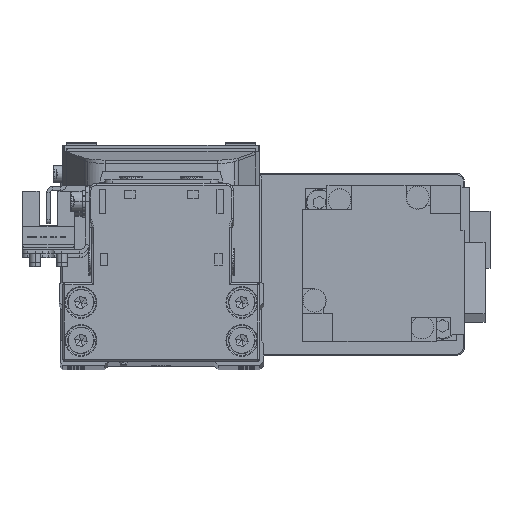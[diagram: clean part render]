
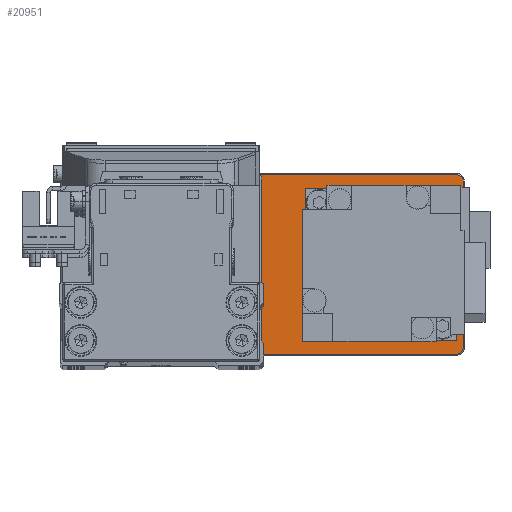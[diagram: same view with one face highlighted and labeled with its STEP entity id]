
A CAD part, top view. The second image highlights one B-rep face of the part: STEP entity #20951.
In plain terms, the highlighted planar face has unit normal (0, 0, 1).
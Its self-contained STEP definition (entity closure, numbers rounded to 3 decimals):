
#289 = FACE_OUTER_BOUND ( 'NONE', #37973, .T. ) ;
#781 = VECTOR ( 'NONE', #17020, 1000. ) ;
#1778 = ORIENTED_EDGE ( 'NONE', *, *, #16296, .T. ) ;
#2036 = ORIENTED_EDGE ( 'NONE', *, *, #4574, .T. ) ;
#2193 = CARTESIAN_POINT ( 'NONE',  ( -51.7, -22., 5. ) ) ;
#2238 = CIRCLE ( 'NONE', #25047, 10.3 ) ;
#2443 = VECTOR ( 'NONE', #18905, 1000. ) ;
#3017 = CARTESIAN_POINT ( 'NONE',  ( 50., 22., 5. ) ) ;
#3178 = AXIS2_PLACEMENT_3D ( 'NONE', #20505, #32922, #4996 ) ;
#3695 = CIRCLE ( 'NONE', #26474, 1.7 ) ;
#3943 = DIRECTION ( 'NONE',  ( -1., 0., 0. ) ) ;
#4574 = EDGE_CURVE ( 'NONE', #15515, #34267, #33291, .T. ) ;
#4580 = CARTESIAN_POINT ( 'NONE',  ( 51.7, 22., 5. ) ) ;
#4996 = DIRECTION ( 'NONE',  ( 1., 0., 0. ) ) ;
#5212 = LINE ( 'NONE', #17647, #14406 ) ;
#5904 = EDGE_LOOP ( 'NONE', ( #18981, #39019 ) ) ;
#6262 = EDGE_CURVE ( 'NONE', #14767, #22839, #20768, .T. ) ;
#6274 = CIRCLE ( 'NONE', #29068, 10.3 ) ;
#6382 = DIRECTION ( 'NONE',  ( 1., 0., 0. ) ) ;
#6483 = CARTESIAN_POINT ( 'NONE',  ( 50., -23.7, 5. ) ) ;
#6609 = ORIENTED_EDGE ( 'NONE', *, *, #14233, .T. ) ;
#8808 = DIRECTION ( 'NONE',  ( 1., 0., 0. ) ) ;
#8862 = DIRECTION ( 'NONE',  ( 0., 0., -1. ) ) ;
#9536 = ORIENTED_EDGE ( 'NONE', *, *, #6262, .T. ) ;
#9682 = DIRECTION ( 'NONE',  ( 1., 0., 0. ) ) ;
#9718 = DIRECTION ( 'NONE',  ( 1., 0., 0. ) ) ;
#9802 = AXIS2_PLACEMENT_3D ( 'NONE', #25183, #37619, #9718 ) ;
#10268 = AXIS2_PLACEMENT_3D ( 'NONE', #21874, #34303, #6382 ) ;
#10428 = CARTESIAN_POINT ( 'NONE',  ( -50., 22., 5. ) ) ;
#10777 = EDGE_CURVE ( 'NONE', #24129, #19034, #2238, .T. ) ;
#11080 = CARTESIAN_POINT ( 'NONE',  ( -38.3, 0., 5. ) ) ;
#11146 = CARTESIAN_POINT ( 'NONE',  ( 30., 0., 5. ) ) ;
#12111 = EDGE_CURVE ( 'NONE', #32870, #34360, #3695, .T. ) ;
#12756 = PLANE ( 'NONE',  #9802 ) ;
#13907 = CARTESIAN_POINT ( 'NONE',  ( -50., -23.7, 5. ) ) ;
#14233 = EDGE_CURVE ( 'NONE', #34267, #15515, #27804, .T. ) ;
#14406 = VECTOR ( 'NONE', #30090, 1000. ) ;
#14767 = VERTEX_POINT ( 'NONE', #37722 ) ;
#15462 = DIRECTION ( 'NONE',  ( 0., 0., 1. ) ) ;
#15515 = VERTEX_POINT ( 'NONE', #37381 ) ;
#15522 = EDGE_CURVE ( 'NONE', #37435, #31463, #33644, .T. ) ;
#15729 = AXIS2_PLACEMENT_3D ( 'NONE', #11146, #23567, #36013 ) ;
#15810 = FACE_BOUND ( 'NONE', #21061, .T. ) ;
#16077 = AXIS2_PLACEMENT_3D ( 'NONE', #25147, #37582, #9682 ) ;
#16296 = EDGE_CURVE ( 'NONE', #31463, #14767, #34403, .T. ) ;
#16539 = AXIS2_PLACEMENT_3D ( 'NONE', #3017, #15462, #27897 ) ;
#17020 = DIRECTION ( 'NONE',  ( 0., 1., 0. ) ) ;
#17647 = CARTESIAN_POINT ( 'NONE',  ( -51.7, -22., 5. ) ) ;
#18608 = CARTESIAN_POINT ( 'NONE',  ( -51.7, 22., 5. ) ) ;
#18854 = CARTESIAN_POINT ( 'NONE',  ( 51.7, 22., 5. ) ) ;
#18905 = DIRECTION ( 'NONE',  ( 1., 0., 0. ) ) ;
#18981 = ORIENTED_EDGE ( 'NONE', *, *, #20014, .T. ) ;
#19034 = VERTEX_POINT ( 'NONE', #39328 ) ;
#19429 = LINE ( 'NONE', #31859, #23109 ) ;
#19568 = VERTEX_POINT ( 'NONE', #18854 ) ;
#20014 = EDGE_CURVE ( 'NONE', #19034, #24129, #6274, .T. ) ;
#20027 = CARTESIAN_POINT ( 'NONE',  ( 51.7, -22., 5. ) ) ;
#20505 = CARTESIAN_POINT ( 'NONE',  ( 50., -22., 5. ) ) ;
#20768 = CIRCLE ( 'NONE', #3178, 1.7 ) ;
#20951 = ADVANCED_FACE ( 'NONE', ( #15810, #28256, #289 ), #12756, .T. ) ;
#21061 = EDGE_LOOP ( 'NONE', ( #6609, #2036 ) ) ;
#21263 = CARTESIAN_POINT ( 'NONE',  ( 42.8, 0., 5. ) ) ;
#21270 = DIRECTION ( 'NONE',  ( 1., 0., 0. ) ) ;
#21874 = CARTESIAN_POINT ( 'NONE',  ( 30., 0., 5. ) ) ;
#22050 = EDGE_CURVE ( 'NONE', #34360, #37435, #5212, .T. ) ;
#22834 = DIRECTION ( 'NONE',  ( 0., 0., 1. ) ) ;
#22839 = VERTEX_POINT ( 'NONE', #20027 ) ;
#23109 = VECTOR ( 'NONE', #3943, 1000. ) ;
#23213 = ORIENTED_EDGE ( 'NONE', *, *, #12111, .T. ) ;
#23567 = DIRECTION ( 'NONE',  ( 0., 0., -1. ) ) ;
#24129 = VERTEX_POINT ( 'NONE', #11080 ) ;
#24276 = CARTESIAN_POINT ( 'NONE',  ( -28., 0., 5. ) ) ;
#24781 = EDGE_CURVE ( 'NONE', #19568, #26750, #34102, .T. ) ;
#25047 = AXIS2_PLACEMENT_3D ( 'NONE', #24276, #36729, #8808 ) ;
#25147 = CARTESIAN_POINT ( 'NONE',  ( -50., -22., 5. ) ) ;
#25183 = CARTESIAN_POINT ( 'NONE',  ( 0., 0., 5. ) ) ;
#25876 = EDGE_CURVE ( 'NONE', #26750, #32870, #19429, .T. ) ;
#26474 = AXIS2_PLACEMENT_3D ( 'NONE', #10428, #22834, #35276 ) ;
#26750 = VERTEX_POINT ( 'NONE', #28525 ) ;
#27747 = ORIENTED_EDGE ( 'NONE', *, *, #22050, .T. ) ;
#27804 = CIRCLE ( 'NONE', #10268, 12.8 ) ;
#27897 = DIRECTION ( 'NONE',  ( 1., 0., 0. ) ) ;
#28256 = FACE_BOUND ( 'NONE', #5904, .T. ) ;
#28525 = CARTESIAN_POINT ( 'NONE',  ( 50., 23.7, 5. ) ) ;
#29068 = AXIS2_PLACEMENT_3D ( 'NONE', #36782, #8862, #21270 ) ;
#29564 = ORIENTED_EDGE ( 'NONE', *, *, #15522, .T. ) ;
#30090 = DIRECTION ( 'NONE',  ( 0., -1., 0. ) ) ;
#30172 = CARTESIAN_POINT ( 'NONE',  ( -50., 23.7, 5. ) ) ;
#31463 = VERTEX_POINT ( 'NONE', #13907 ) ;
#31859 = CARTESIAN_POINT ( 'NONE',  ( -50., 23.7, 5. ) ) ;
#32314 = ORIENTED_EDGE ( 'NONE', *, *, #25876, .T. ) ;
#32506 = LINE ( 'NONE', #4580, #781 ) ;
#32870 = VERTEX_POINT ( 'NONE', #30172 ) ;
#32922 = DIRECTION ( 'NONE',  ( 0., 0., 1. ) ) ;
#33291 = CIRCLE ( 'NONE', #15729, 12.8 ) ;
#33644 = CIRCLE ( 'NONE', #16077, 1.7 ) ;
#34102 = CIRCLE ( 'NONE', #16539, 1.7 ) ;
#34267 = VERTEX_POINT ( 'NONE', #21263 ) ;
#34303 = DIRECTION ( 'NONE',  ( 0., 0., -1. ) ) ;
#34360 = VERTEX_POINT ( 'NONE', #18608 ) ;
#34403 = LINE ( 'NONE', #6483, #2443 ) ;
#34541 = ORIENTED_EDGE ( 'NONE', *, *, #35970, .T. ) ;
#35276 = DIRECTION ( 'NONE',  ( 1., 0., 0. ) ) ;
#35970 = EDGE_CURVE ( 'NONE', #22839, #19568, #32506, .T. ) ;
#36013 = DIRECTION ( 'NONE',  ( 1., 0., 0. ) ) ;
#36729 = DIRECTION ( 'NONE',  ( 0., 0., -1. ) ) ;
#36782 = CARTESIAN_POINT ( 'NONE',  ( -28., 0., 5. ) ) ;
#37381 = CARTESIAN_POINT ( 'NONE',  ( 17.2, 0., 5. ) ) ;
#37435 = VERTEX_POINT ( 'NONE', #2193 ) ;
#37582 = DIRECTION ( 'NONE',  ( 0., 0., 1. ) ) ;
#37619 = DIRECTION ( 'NONE',  ( 0., 0., 1. ) ) ;
#37722 = CARTESIAN_POINT ( 'NONE',  ( 50., -23.7, 5. ) ) ;
#37973 = EDGE_LOOP ( 'NONE', ( #1778, #9536, #34541, #39534, #32314, #23213, #27747, #29564 ) ) ;
#39019 = ORIENTED_EDGE ( 'NONE', *, *, #10777, .T. ) ;
#39328 = CARTESIAN_POINT ( 'NONE',  ( -17.7, 0., 5. ) ) ;
#39534 = ORIENTED_EDGE ( 'NONE', *, *, #24781, .T. ) ;
